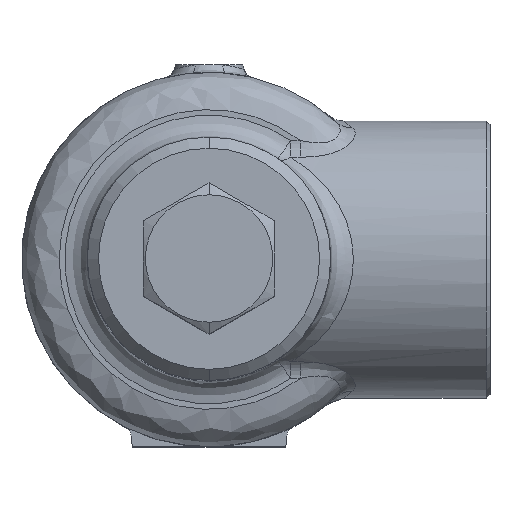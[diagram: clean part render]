
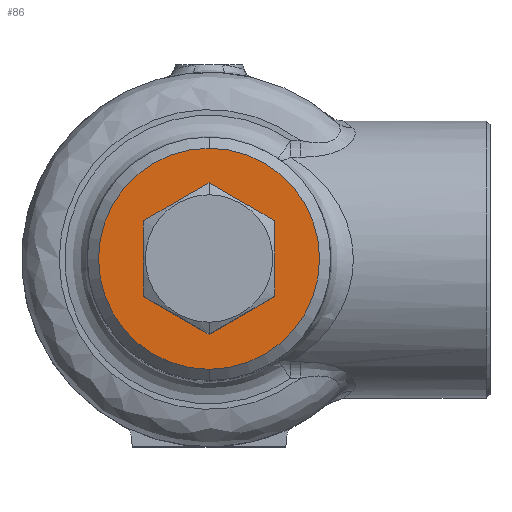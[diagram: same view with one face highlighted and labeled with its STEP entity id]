
A CAD part, top view. The second image highlights one B-rep face of the part: STEP entity #86.
In plain terms, the highlighted planar face has unit normal (0, 0, 1) as drawn and (0, 1, 0) by its records, which use the part's own axes.
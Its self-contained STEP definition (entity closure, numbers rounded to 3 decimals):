
#86=ADVANCED_FACE('',(#283,#284),#282,.T.);
#282=PLANE('',#1227);
#283=FACE_OUTER_BOUND('',#1228,.T.);
#284=FACE_BOUND('',#1229,.T.);
#1224=CARTESIAN_POINT('',(-61.095,130.,-67.85));
#1225=DIRECTION('',(0.,1.,0.));
#1226=DIRECTION('',(0.,0.,1.));
#1227=AXIS2_PLACEMENT_3D('',#1224,#1225,#1226);
#1228=EDGE_LOOP('',(#2973,#2974));
#1229=EDGE_LOOP('',(#2975,#2976,#2977,#2978,#2979,#2980));
#2973=ORIENTED_EDGE('',*,*,#3408,.T.);
#2974=ORIENTED_EDGE('',*,*,#3409,.T.);
#2975=ORIENTED_EDGE('',*,*,#3410,.F.);
#2976=ORIENTED_EDGE('',*,*,#3411,.F.);
#2977=ORIENTED_EDGE('',*,*,#3412,.F.);
#2978=ORIENTED_EDGE('',*,*,#3413,.F.);
#2979=ORIENTED_EDGE('',*,*,#3414,.F.);
#2980=ORIENTED_EDGE('',*,*,#3415,.F.);
#3408=EDGE_CURVE('',#4014,#4015,#4016,.T.);
#3409=EDGE_CURVE('',#4015,#4014,#4022,.T.);
#3410=EDGE_CURVE('',#4028,#4029,#4030,.T.);
#3411=EDGE_CURVE('',#4036,#4028,#4037,.T.);
#3412=EDGE_CURVE('',#4043,#4036,#4044,.T.);
#3413=EDGE_CURVE('',#4050,#4043,#4051,.T.);
#3414=EDGE_CURVE('',#4057,#4050,#4058,.T.);
#3415=EDGE_CURVE('',#4029,#4057,#4064,.T.);
#4014=VERTEX_POINT('',#5520);
#4015=VERTEX_POINT('',#5521);
#4016=CIRCLE('',#5525,29.5);
#4022=CIRCLE('',#5529,29.5);
#4028=VERTEX_POINT('',#5530);
#4029=VERTEX_POINT('',#5531);
#4030=LINE('',#5532,#5533);
#4036=VERTEX_POINT('',#5535);
#4037=LINE('',#5536,#5537);
#4043=VERTEX_POINT('',#5539);
#4044=LINE('',#5540,#5541);
#4050=VERTEX_POINT('',#5543);
#4051=LINE('',#5544,#5545);
#4057=VERTEX_POINT('',#5547);
#4058=LINE('',#5548,#5549);
#4064=LINE('',#5551,#5552);
#5520=CARTESIAN_POINT('',(0.,130.,29.5));
#5521=CARTESIAN_POINT('',(0.,130.,-29.5));
#5522=CARTESIAN_POINT('',(0.,130.,0.));
#5523=DIRECTION('',(0.,1.,0.));
#5524=DIRECTION('',(0.,0.,1.));
#5525=AXIS2_PLACEMENT_3D('',#5522,#5523,#5524);
#5526=CARTESIAN_POINT('',(0.,130.,0.));
#5527=DIRECTION('',(0.,1.,0.));
#5528=DIRECTION('',(0.,0.,1.));
#5529=AXIS2_PLACEMENT_3D('',#5526,#5527,#5528);
#5530=CARTESIAN_POINT('',(17.5,130.,10.104));
#5531=CARTESIAN_POINT('',(17.5,130.,-10.104));
#5532=CARTESIAN_POINT('',(17.5,130.,10.104));
#5533=VECTOR('',#5534,20.207);
#5534=DIRECTION('',(0.,0.,-1.));
#5535=CARTESIAN_POINT('',(0.,130.,20.207));
#5536=CARTESIAN_POINT('',(0.,130.,20.207));
#5537=VECTOR('',#5538,20.207);
#5538=DIRECTION('',(0.866,0.,-0.5));
#5539=CARTESIAN_POINT('',(-17.5,130.,10.104));
#5540=CARTESIAN_POINT('',(-17.5,130.,10.104));
#5541=VECTOR('',#5542,20.207);
#5542=DIRECTION('',(0.866,0.,0.5));
#5543=CARTESIAN_POINT('',(-17.5,130.,-10.104));
#5544=CARTESIAN_POINT('',(-17.5,130.,-10.104));
#5545=VECTOR('',#5546,20.207);
#5546=DIRECTION('',(0.,0.,1.));
#5547=CARTESIAN_POINT('',(0.,130.,-20.207));
#5548=CARTESIAN_POINT('',(0.,130.,-20.207));
#5549=VECTOR('',#5550,20.207);
#5550=DIRECTION('',(-0.866,0.,0.5));
#5551=CARTESIAN_POINT('',(17.5,130.,-10.104));
#5552=VECTOR('',#5553,20.207);
#5553=DIRECTION('',(-0.866,0.,-0.5));
